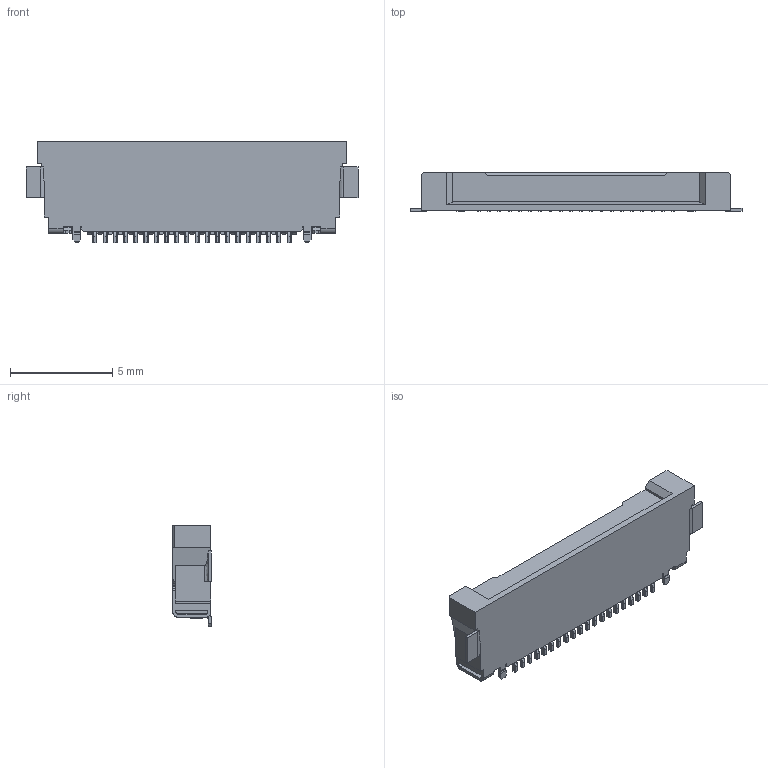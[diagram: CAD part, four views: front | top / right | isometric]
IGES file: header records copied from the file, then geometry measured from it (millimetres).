
Start section: SolidWorks IGES file using analytic representation for surfaces
Global section: file name: C:\3dwork\扟愳\140530 EVA-VS 10P 20P 3D儌僨儖\20535-020ExxxC Assy IGES R5 ALL.IGS; native system: SolidWorks 2011; preprocessor: SolidWorks 2011; author: kaihatsu-3dcad-2; date: 140530.112001; units: millimetre
Bounding box: 16.25 x 1.9 x 4.95 mm (x, y, z)
Surface area: 229.5 mm2 (no closed solid volume)
Topology: 0 solids, 0 shells, 978 faces, 6162 edges, 6162 vertices
Faces by surface type: bspline 706, revolution 272
